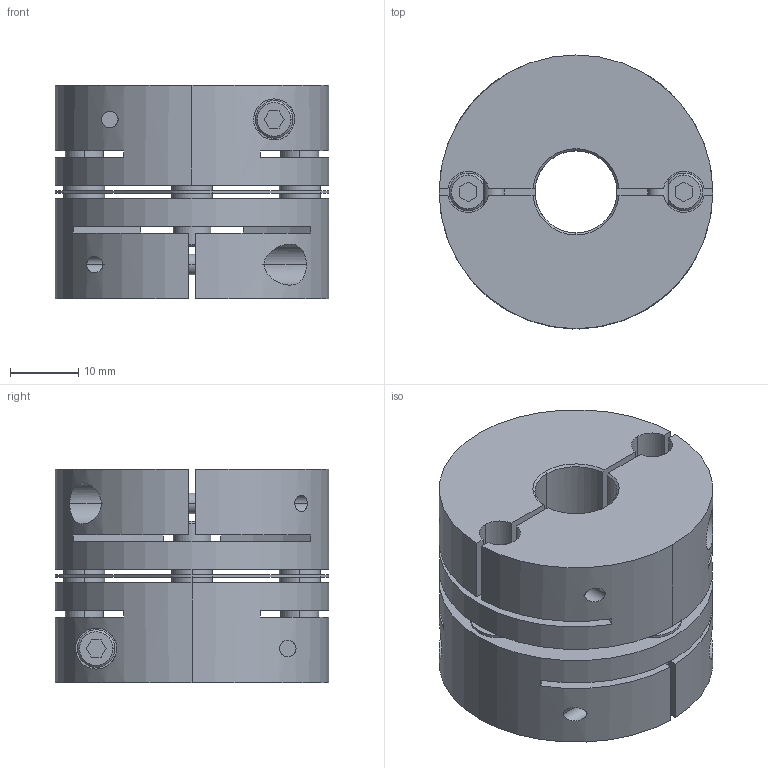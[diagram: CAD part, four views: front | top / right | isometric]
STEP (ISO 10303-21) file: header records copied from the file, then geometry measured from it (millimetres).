
FILE_DESCRIPTION((''),'2;1');
FILE_NAME('LAS-40C-12×18.stp','2014-02-05T08:59:37',(''),(''),'AutoCAD STEP 2000i','AutoCAD 2000i',', , ');
FILE_SCHEMA(('CONFIG_CONTROL_DESIGN'));
Length unit declared in the file: millimetre
Products named in the file (6): LAS-40C-10×15; 忣兜1; LA-4002-D15; LA-4002-D10-1; LA-4002-D10; LAS40-ITA
Assembly tree (5 placements, depth 2):
  LAS-40C-10×15
    忣兜1
    LA-4002-D15
    LA-4002-D10-1
    LA-4002-D10
    LAS40-ITA
Bounding box: 40 x 40 x 31.2 mm (x, y, z)
Volume: 28807.6 mm3; surface area: 15129.2 mm2
Topology: 1 solids, 1 shells, 236 faces, 624 edges, 408 vertices
Faces by surface type: plane 112, cylinder 96, cone 28
Entity records: 8177 total; most frequent: CARTESIAN_POINT 1970, DIRECTION 1304, ORIENTED_EDGE 1248, EDGE_CURVE 624, AXIS2_PLACEMENT_3D 478, VERTEX_POINT 408, VECTOR 348, LINE 348
